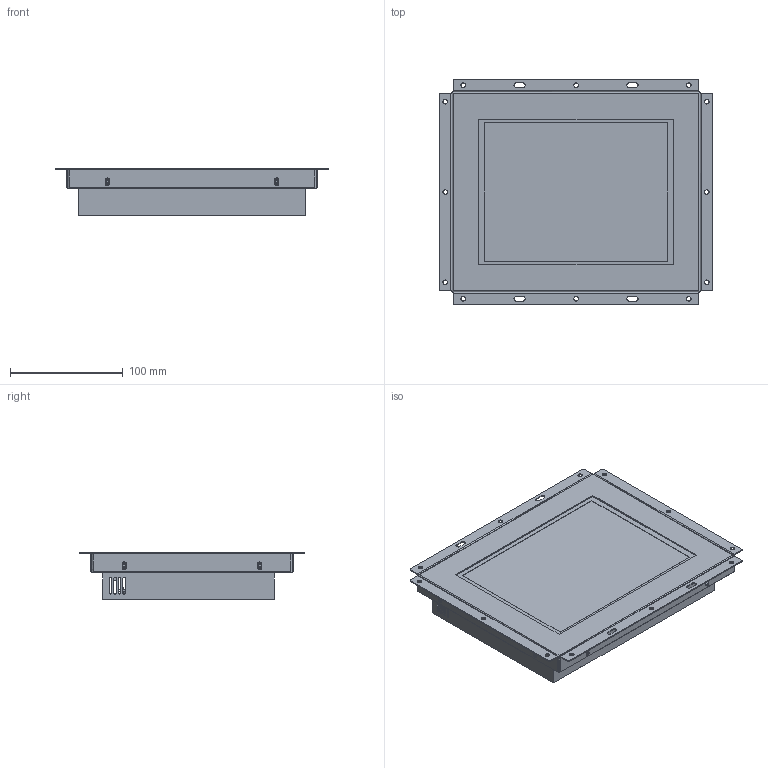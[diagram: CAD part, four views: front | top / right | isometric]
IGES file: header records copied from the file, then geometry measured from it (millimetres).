
Global section: file name: FIE084LM; native system: AutoCAD 2019 – 繁體中文 (Traditional Chinese),62HAutode; preprocessor: sk Translation Framework DWG producer (atf_dwg_producer); organization: unknown; date: 20210622.171024; units: millimetre
Bounding box: 242 x 199.4 x 41.5 mm (x, y, z)
Volume: 457441.3 mm3; surface area: 518960.2 mm2
Topology: 24 solids, 24 shells, 1312 faces, 3432 edges, 2348 vertices
Faces by surface type: bspline 1312
